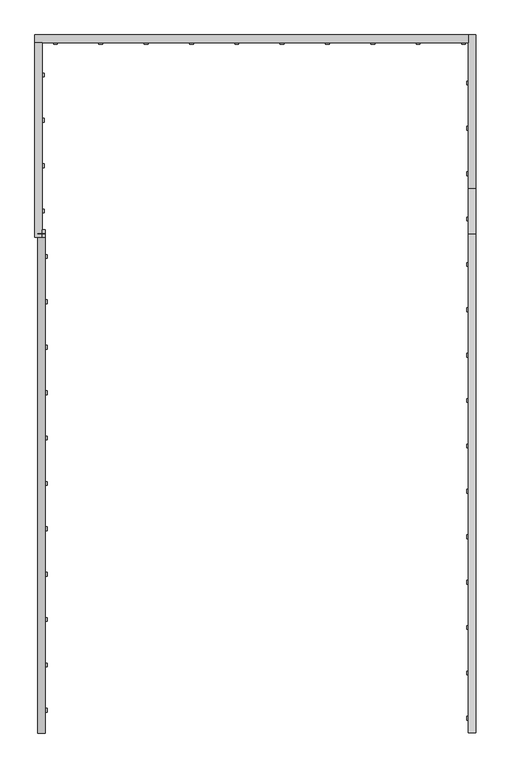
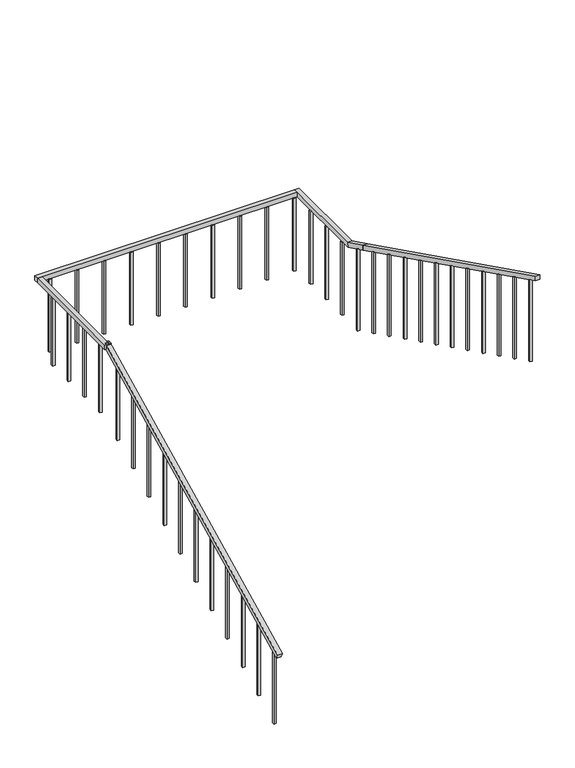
"""IFC4 building model written with IfcOpenShell, lengths in millimetres: railing geometry, ADSK_Стандартное_h 900 Поручень квадратный без направляющих."""

from ifc_helpers import new_model, si_unit, frame, origin, place, context, project, spatial, polyline, outline, extrude, faceted_brep, source, transform, mapped, element, save


def railing_f261a96f(model_context):
    return source(origin(), model_context, "Body", "SolidModel", [
        faceted_brep([(-3186.9240021, 16519.4362632, 1049.1666667), (-3186.9240021, 16541.6973966, 1004.3956722), (-3136.9240021, 16541.6973966, 1004.3956722), (-3136.9240021, 16519.4362632, 1049.1666667), (-3186.9240021, 19819.4362632, 2690.0), (-3136.9240021, 19819.4362632, 2690.0), (-3136.9240021, 19841.6973966, 2645.2290056), (-3186.9240021, 19841.6973966, 2645.2290056)], [[[0, 1, 2, 3]], [[4, 5, 6, 7]], [[1, 0, 4, 7]], [[2, 1, 7, 6]], [[3, 2, 6, 5]], [[0, 3, 5, 4]]]),
        faceted_brep([(-3136.9240021, 19794.8362632, 2690.0), (-3136.9240021, 19794.8362632, 2640.0), (-3136.9240021, 19844.8362632, 2640.0), (-3136.9240021, 19844.8362632, 2690.0), (-3156.9240021, 19794.8362632, 2690.0), (-3156.9240021, 19844.8362632, 2690.0), (-3156.9240021, 19844.8362632, 2640.0), (-3156.9240021, 19794.8362632, 2640.0)], [[[0, 1, 2, 3]], [[4, 5, 6, 7]], [[1, 0, 4, 7]], [[2, 1, 7, 6]], [[3, 2, 6, 5]], [[0, 3, 5, 4]]]),
        faceted_brep([(-3206.9240021, 19794.8362632, 2690.0), (-3206.9240021, 19794.8362632, 2640.0), (-3156.9240021, 19794.8362632, 2640.0), (-3156.9240021, 19794.8362632, 2690.0), (-3206.9240021, 21083.6362632, 2690.0), (-3156.9240021, 21083.6362632, 2690.0), (-3156.9240021, 21083.6362632, 2640.0), (-3206.9240021, 21083.6362632, 2640.0)], [[[0, 1, 2, 3]], [[4, 5, 6, 7]], [[1, 0, 4, 7]], [[2, 1, 7, 6]], [[3, 2, 6, 5]], [[0, 3, 5, 4]]]),
        faceted_brep([(-3206.9240021, 21133.6362632, 2690.0), (-3206.9240021, 21133.6362632, 2640.0), (-3206.9240021, 21083.6362632, 2640.0), (-3206.9240021, 21083.6362632, 2690.0), (-338.1240021, 21133.6362632, 2690.0), (-338.1240021, 21083.6362632, 2690.0), (-338.1240021, 21083.6362632, 2640.0), (-338.1240021, 21133.6362632, 2640.0)], [[[0, 1, 2, 3]], [[4, 5, 6, 7]], [[1, 0, 4, 7]], [[2, 1, 7, 6]], [[3, 2, 6, 5]], [[0, 3, 5, 4]]]),
        faceted_brep([(-288.1240021, 21133.6362632, 2690.0), (-288.1240021, 21133.6362632, 2640.0), (-338.1240021, 21133.6362632, 2640.0), (-338.1240021, 21133.6362632, 2690.0), (-288.1240021, 20119.4362632, 2690.0), (-288.1240021, 20107.6915657, 2640.0), (-338.1240021, 20107.6915657, 2640.0), (-338.1240021, 20119.4362632, 2690.0), (-288.1240021, 19819.4362632, 2839.1666667), (-338.1240021, 19819.4362632, 2839.1666667), (-338.1240021, 19819.4362632, 2783.326942), (-288.1240021, 19819.4362632, 2783.326942)], [[[0, 1, 2, 3]], [[1, 0, 4, 5]], [[2, 1, 5, 6]], [[3, 2, 6, 7]], [[0, 3, 7, 4]], [[8, 9, 10, 11]], [[5, 4, 8, 11]], [[6, 5, 11, 10]], [[7, 6, 10, 9]], [[4, 7, 9, 8]]]),
        faceted_brep([(-288.1240021, 19819.4362632, 2839.1666667), (-288.1240021, 19819.4362632, 2783.326942), (-338.1240021, 19819.4362632, 2783.326942), (-338.1240021, 19819.4362632, 2839.1666667), (-288.1240021, 16519.4362632, 4480.0), (-338.1240021, 16519.4362632, 4480.0), (-338.1240021, 16519.4362632, 4424.1602754), (-288.1240021, 16519.4362632, 4424.1602754)], [[[0, 1, 2, 3]], [[4, 5, 6, 7]], [[1, 0, 4, 7]], [[2, 1, 7, 6]], [[3, 2, 6, 5]], [[0, 3, 5, 4]]]),
        extrude(outline(polyline([(16629.1362632, 3430.8333333), (16604.1362632, 3430.8333333), (16604.1362632, 4387.8852778), (16629.1362632, 4375.4547222), (16629.1362632, 3430.8333333)])), frame((-350.6240021, 0.0, 0.0), z_axis=(1.0, 0.0, 0.0), x_axis=(0.0, 1.0, 0.0)), (0.0, 0.0, 1.0), 25.0),
        extrude(outline(polyline([(16929.1362632, 3281.6666667), (16904.1362632, 3281.6666667), (16904.1362632, 4238.7186111), (16929.1362632, 4226.2880556), (16929.1362632, 3281.6666667)])), frame((-350.6240021, 0.0, 0.0), z_axis=(1.0, 0.0, 0.0), x_axis=(0.0, 1.0, 0.0)), (0.0, 0.0, 1.0), 25.0),
        extrude(outline(polyline([(17229.1362632, 3132.5), (17204.1362632, 3132.5), (17204.1362632, 4089.5519444), (17229.1362632, 4077.1213889), (17229.1362632, 3132.5)])), frame((-350.6240021, 0.0, 0.0), z_axis=(1.0, 0.0, 0.0), x_axis=(0.0, 1.0, 0.0)), (0.0, 0.0, 1.0), 25.0),
        extrude(outline(polyline([(17529.1362632, 2983.3333333), (17504.1362632, 2983.3333333), (17504.1362632, 3940.3852778), (17529.1362632, 3927.9547222), (17529.1362632, 2983.3333333)])), frame((-350.6240021, 0.0, 0.0), z_axis=(1.0, 0.0, 0.0), x_axis=(0.0, 1.0, 0.0)), (0.0, 0.0, 1.0), 25.0),
        extrude(outline(polyline([(17829.1362632, 2834.1666667), (17804.1362632, 2834.1666667), (17804.1362632, 3791.2186111), (17829.1362632, 3778.7880556), (17829.1362632, 2834.1666667)])), frame((-350.6240021, 0.0, 0.0), z_axis=(1.0, 0.0, 0.0), x_axis=(0.0, 1.0, 0.0)), (0.0, 0.0, 1.0), 25.0),
        extrude(outline(polyline([(18129.1362632, 2685.0), (18104.1362632, 2685.0), (18104.1362632, 3642.0519444), (18129.1362632, 3629.6213889), (18129.1362632, 2685.0)])), frame((-350.6240021, 0.0, 0.0), z_axis=(1.0, 0.0, 0.0), x_axis=(0.0, 1.0, 0.0)), (0.0, 0.0, 1.0), 25.0),
        extrude(outline(polyline([(18429.1362632, 2535.8333333), (18404.1362632, 2535.8333333), (18404.1362632, 3492.8852778), (18429.1362632, 3480.4547222), (18429.1362632, 2535.8333333)])), frame((-350.6240021, 0.0, 0.0), z_axis=(1.0, 0.0, 0.0), x_axis=(0.0, 1.0, 0.0)), (0.0, 0.0, 1.0), 25.0),
        extrude(outline(polyline([(18729.1362632, 2386.6666667), (18704.1362632, 2386.6666667), (18704.1362632, 3343.7186111), (18729.1362632, 3331.2880556), (18729.1362632, 2386.6666667)])), frame((-350.6240021, 0.0, 0.0), z_axis=(1.0, 0.0, 0.0), x_axis=(0.0, 1.0, 0.0)), (0.0, 0.0, 1.0), 25.0),
        extrude(outline(polyline([(19029.1362632, 2237.5), (19004.1362632, 2237.5), (19004.1362632, 3194.5519444), (19029.1362632, 3182.1213889), (19029.1362632, 2237.5)])), frame((-350.6240021, 0.0, 0.0), z_axis=(1.0, 0.0, 0.0), x_axis=(0.0, 1.0, 0.0)), (0.0, 0.0, 1.0), 25.0),
        extrude(outline(polyline([(19329.1362632, 2088.3333333), (19304.1362632, 2088.3333333), (19304.1362632, 3045.3852778), (19329.1362632, 3032.9547222), (19329.1362632, 2088.3333333)])), frame((-350.6240021, 0.0, 0.0), z_axis=(1.0, 0.0, 0.0), x_axis=(0.0, 1.0, 0.0)), (0.0, 0.0, 1.0), 25.0),
        extrude(outline(polyline([(19629.1362632, 1939.1666667), (19604.1362632, 1939.1666667), (19604.1362632, 2896.2186111), (19629.1362632, 2883.7880556), (19629.1362632, 1939.1666667)])), frame((-350.6240021, 0.0, 0.0), z_axis=(1.0, 0.0, 0.0), x_axis=(0.0, 1.0, 0.0)), (0.0, 0.0, 1.0), 25.0),
        extrude(outline(polyline([(19929.1362632, 1790.0), (19904.1362632, 1790.0), (19904.1362632, 2747.0519444), (19929.1362632, 2734.6213889), (19929.1362632, 1790.0)])), frame((-350.6240021, 0.0, 0.0), z_axis=(1.0, 0.0, 0.0), x_axis=(0.0, 1.0, 0.0)), (0.0, 0.0, 1.0), 25.0),
        extrude(outline(polyline([(-325.6240021, 20229.1362632), (-325.6240021, 20204.1362632), (-350.6240021, 20204.1362632), (-350.6240021, 20229.1362632), (-325.6240021, 20229.1362632)])), frame((0.0, 0.0, 1790.0), z_axis=(0.0, 0.0, 1.0), x_axis=(1.0, 0.0, 0.0)), (0.0, 0.0, 1.0), 850.0),
        extrude(outline(polyline([(-325.6240021, 20529.1362632), (-325.6240021, 20504.1362632), (-350.6240021, 20504.1362632), (-350.6240021, 20529.1362632), (-325.6240021, 20529.1362632)])), frame((0.0, 0.0, 1790.0), z_axis=(0.0, 0.0, 1.0), x_axis=(1.0, 0.0, 0.0)), (0.0, 0.0, 1.0), 850.0),
        extrude(outline(polyline([(-325.6240021, 20829.1362632), (-325.6240021, 20804.1362632), (-350.6240021, 20804.1362632), (-350.6240021, 20829.1362632), (-325.6240021, 20829.1362632)])), frame((0.0, 0.0, 1790.0), z_axis=(0.0, 0.0, 1.0), x_axis=(1.0, 0.0, 0.0)), (0.0, 0.0, 1.0), 850.0),
        extrude(outline(polyline([(-383.6240021, 21096.1362632), (-358.6240021, 21096.1362632), (-358.6240021, 21071.1362632), (-383.6240021, 21071.1362632), (-383.6240021, 21096.1362632)])), frame((0.0, 0.0, 1790.0), z_axis=(0.0, 0.0, 1.0), x_axis=(1.0, 0.0, 0.0)), (0.0, 0.0, 1.0), 850.0),
        extrude(outline(polyline([(-683.6240021, 21096.1362632), (-658.6240021, 21096.1362632), (-658.6240021, 21071.1362632), (-683.6240021, 21071.1362632), (-683.6240021, 21096.1362632)])), frame((0.0, 0.0, 1790.0), z_axis=(0.0, 0.0, 1.0), x_axis=(1.0, 0.0, 0.0)), (0.0, 0.0, 1.0), 850.0),
        extrude(outline(polyline([(-983.6240021, 21096.1362632), (-958.6240021, 21096.1362632), (-958.6240021, 21071.1362632), (-983.6240021, 21071.1362632), (-983.6240021, 21096.1362632)])), frame((0.0, 0.0, 1790.0), z_axis=(0.0, 0.0, 1.0), x_axis=(1.0, 0.0, 0.0)), (0.0, 0.0, 1.0), 850.0),
        extrude(outline(polyline([(-1283.6240021, 21096.1362632), (-1258.6240021, 21096.1362632), (-1258.6240021, 21071.1362632), (-1283.6240021, 21071.1362632), (-1283.6240021, 21096.1362632)])), frame((0.0, 0.0, 1790.0), z_axis=(0.0, 0.0, 1.0), x_axis=(1.0, 0.0, 0.0)), (0.0, 0.0, 1.0), 850.0),
        extrude(outline(polyline([(-1583.6240021, 21096.1362632), (-1558.6240021, 21096.1362632), (-1558.6240021, 21071.1362632), (-1583.6240021, 21071.1362632), (-1583.6240021, 21096.1362632)])), frame((0.0, 0.0, 1790.0), z_axis=(0.0, 0.0, 1.0), x_axis=(1.0, 0.0, 0.0)), (0.0, 0.0, 1.0), 850.0),
        extrude(outline(polyline([(-1883.6240021, 21096.1362632), (-1858.6240021, 21096.1362632), (-1858.6240021, 21071.1362632), (-1883.6240021, 21071.1362632), (-1883.6240021, 21096.1362632)])), frame((0.0, 0.0, 1790.0), z_axis=(0.0, 0.0, 1.0), x_axis=(1.0, 0.0, 0.0)), (0.0, 0.0, 1.0), 850.0),
        extrude(outline(polyline([(-2183.6240021, 21096.1362632), (-2158.6240021, 21096.1362632), (-2158.6240021, 21071.1362632), (-2183.6240021, 21071.1362632), (-2183.6240021, 21096.1362632)])), frame((0.0, 0.0, 1790.0), z_axis=(0.0, 0.0, 1.0), x_axis=(1.0, 0.0, 0.0)), (0.0, 0.0, 1.0), 850.0),
        extrude(outline(polyline([(-2483.6240021, 21096.1362632), (-2458.6240021, 21096.1362632), (-2458.6240021, 21071.1362632), (-2483.6240021, 21071.1362632), (-2483.6240021, 21096.1362632)])), frame((0.0, 0.0, 1790.0), z_axis=(0.0, 0.0, 1.0), x_axis=(1.0, 0.0, 0.0)), (0.0, 0.0, 1.0), 850.0),
        extrude(outline(polyline([(-2783.6240021, 21096.1362632), (-2758.6240021, 21096.1362632), (-2758.6240021, 21071.1362632), (-2783.6240021, 21071.1362632), (-2783.6240021, 21096.1362632)])), frame((0.0, 0.0, 1790.0), z_axis=(0.0, 0.0, 1.0), x_axis=(1.0, 0.0, 0.0)), (0.0, 0.0, 1.0), 850.0),
        extrude(outline(polyline([(-3083.6240021, 21096.1362632), (-3058.6240021, 21096.1362632), (-3058.6240021, 21071.1362632), (-3083.6240021, 21071.1362632), (-3083.6240021, 21096.1362632)])), frame((0.0, 0.0, 1790.0), z_axis=(0.0, 0.0, 1.0), x_axis=(1.0, 0.0, 0.0)), (0.0, 0.0, 1.0), 850.0),
        extrude(outline(polyline([(-3169.4240021, 20856.9362632), (-3169.4240021, 20881.9362632), (-3144.4240021, 20881.9362632), (-3144.4240021, 20856.9362632), (-3169.4240021, 20856.9362632)])), frame((0.0, 0.0, 1790.0), z_axis=(0.0, 0.0, 1.0), x_axis=(1.0, 0.0, 0.0)), (0.0, 0.0, 1.0), 850.0),
        extrude(outline(polyline([(-3169.4240021, 20556.9362632), (-3169.4240021, 20581.9362632), (-3144.4240021, 20581.9362632), (-3144.4240021, 20556.9362632), (-3169.4240021, 20556.9362632)])), frame((0.0, 0.0, 1790.0), z_axis=(0.0, 0.0, 1.0), x_axis=(1.0, 0.0, 0.0)), (0.0, 0.0, 1.0), 850.0),
        extrude(outline(polyline([(-3169.4240021, 20256.9362632), (-3169.4240021, 20281.9362632), (-3144.4240021, 20281.9362632), (-3144.4240021, 20256.9362632), (-3169.4240021, 20256.9362632)])), frame((0.0, 0.0, 1790.0), z_axis=(0.0, 0.0, 1.0), x_axis=(1.0, 0.0, 0.0)), (0.0, 0.0, 1.0), 850.0),
        extrude(outline(polyline([(-3169.4240021, 19956.9362632), (-3169.4240021, 19981.9362632), (-3144.4240021, 19981.9362632), (-3144.4240021, 19956.9362632), (-3169.4240021, 19956.9362632)])), frame((0.0, 0.0, 1790.0), z_axis=(0.0, 0.0, 1.0), x_axis=(1.0, 0.0, 0.0)), (0.0, 0.0, 1.0), 850.0),
        extrude(outline(polyline([(19656.9362632, 2559.2013889), (19681.9362632, 2571.6319444), (19681.9362632, 1640.8333333), (19656.9362632, 1640.8333333), (19656.9362632, 2559.2013889)])), frame((-3149.4240021, 0.0, 0.0), z_axis=(1.0, 0.0, 0.0), x_axis=(0.0, 1.0, 0.0)), (0.0, 0.0, 1.0), 25.0),
        extrude(outline(polyline([(19356.9362632, 2410.0347222), (19381.9362632, 2422.4652778), (19381.9362632, 1491.6666667), (19356.9362632, 1491.6666667), (19356.9362632, 2410.0347222)])), frame((-3149.4240021, 0.0, 0.0), z_axis=(1.0, 0.0, 0.0), x_axis=(0.0, 1.0, 0.0)), (0.0, 0.0, 1.0), 25.0),
        extrude(outline(polyline([(19056.9362632, 2260.8680556), (19081.9362632, 2273.2986111), (19081.9362632, 1342.5), (19056.9362632, 1342.5), (19056.9362632, 2260.8680556)])), frame((-3149.4240021, 0.0, 0.0), z_axis=(1.0, 0.0, 0.0), x_axis=(0.0, 1.0, 0.0)), (0.0, 0.0, 1.0), 25.0),
        extrude(outline(polyline([(18756.9362632, 2111.7013889), (18781.9362632, 2124.1319444), (18781.9362632, 1193.3333333), (18756.9362632, 1193.3333333), (18756.9362632, 2111.7013889)])), frame((-3149.4240021, 0.0, 0.0), z_axis=(1.0, 0.0, 0.0), x_axis=(0.0, 1.0, 0.0)), (0.0, 0.0, 1.0), 25.0),
        extrude(outline(polyline([(18456.9362632, 1962.5347222), (18481.9362632, 1974.9652778), (18481.9362632, 1044.1666667), (18456.9362632, 1044.1666667), (18456.9362632, 1962.5347222)])), frame((-3149.4240021, 0.0, 0.0), z_axis=(1.0, 0.0, 0.0), x_axis=(0.0, 1.0, 0.0)), (0.0, 0.0, 1.0), 25.0),
        extrude(outline(polyline([(18156.9362632, 1813.3680556), (18181.9362632, 1825.7986111), (18181.9362632, 895.0), (18156.9362632, 895.0), (18156.9362632, 1813.3680556)])), frame((-3149.4240021, 0.0, 0.0), z_axis=(1.0, 0.0, 0.0), x_axis=(0.0, 1.0, 0.0)), (0.0, 0.0, 1.0), 25.0),
        extrude(outline(polyline([(17856.9362632, 1664.2013889), (17881.9362632, 1676.6319444), (17881.9362632, 745.8333333), (17856.9362632, 745.8333333), (17856.9362632, 1664.2013889)])), frame((-3149.4240021, 0.0, 0.0), z_axis=(1.0, 0.0, 0.0), x_axis=(0.0, 1.0, 0.0)), (0.0, 0.0, 1.0), 25.0),
        extrude(outline(polyline([(17556.9362632, 1515.0347222), (17581.9362632, 1527.4652778), (17581.9362632, 596.6666667), (17556.9362632, 596.6666667), (17556.9362632, 1515.0347222)])), frame((-3149.4240021, 0.0, 0.0), z_axis=(1.0, 0.0, 0.0), x_axis=(0.0, 1.0, 0.0)), (0.0, 0.0, 1.0), 25.0),
        extrude(outline(polyline([(17256.9362632, 1365.8680556), (17281.9362632, 1378.2986111), (17281.9362632, 447.5), (17256.9362632, 447.5), (17256.9362632, 1365.8680556)])), frame((-3149.4240021, 0.0, 0.0), z_axis=(1.0, 0.0, 0.0), x_axis=(0.0, 1.0, 0.0)), (0.0, 0.0, 1.0), 25.0),
        extrude(outline(polyline([(16956.9362632, 1216.7013889), (16981.9362632, 1229.1319444), (16981.9362632, 298.3333333), (16956.9362632, 298.3333333), (16956.9362632, 1216.7013889)])), frame((-3149.4240021, 0.0, 0.0), z_axis=(1.0, 0.0, 0.0), x_axis=(0.0, 1.0, 0.0)), (0.0, 0.0, 1.0), 25.0),
        extrude(outline(polyline([(16656.9362632, 1067.5347222), (16681.9362632, 1079.9652778), (16681.9362632, 149.1666667), (16656.9362632, 149.1666667), (16656.9362632, 1067.5347222)])), frame((-3149.4240021, 0.0, 0.0), z_axis=(1.0, 0.0, 0.0), x_axis=(0.0, 1.0, 0.0)), (0.0, 0.0, 1.0), 25.0),
    ])


if __name__ == "__main__":
    model = new_model("IFC4")
    model_context = context("Model", 3, world=origin())
    ifc_project = project(units=[si_unit("LENGTHUNIT", "METRE", prefix="MILLI")], contexts=[model_context])
    site = spatial("IfcSite", under=ifc_project)
    building = spatial("IfcBuilding", under=site)
    placement = place(None, origin())
    railing_shape = railing_f261a96f(model_context)
    element("IfcRailing", 1, ObjectType="ADSK_Стандартное_h 900 Поручень квадратный без направляющих", at=placement, inside=building, context=model_context, shape_type="MappedRepresentation", body=[
        mapped(railing_shape, transform((0.0, 0.0, 0.0), x_axis=(1.0, 0.0, 0.0), y_axis=(0.0, 1.0, 0.0), z_axis=(0.0, 0.0, 1.0))),
    ])
    save(model, "model.ifc")
